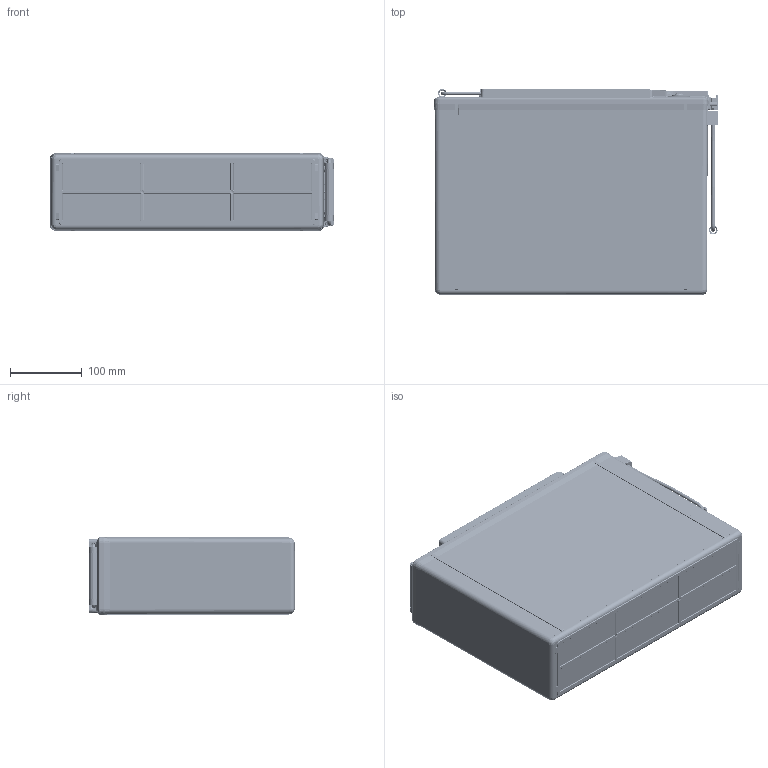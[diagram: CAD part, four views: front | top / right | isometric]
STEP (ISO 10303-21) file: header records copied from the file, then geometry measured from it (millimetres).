
FILE_DESCRIPTION (( 'STEP AP203' ), '1' );
FILE_NAME ('ODS-AGM225FTT.STEP', '2024-06-05T15:04:26', ( '' ), ( '' ), 'SwSTEP 2.0', 'SolidWorks 2023', '' );
FILE_SCHEMA (( 'CONFIG_CONTROL_DESIGN' ));
Products named in the file (1): ODS-AGM225FTT
Bounding box: 395 x 287 x 108 mm (x, y, z)
Surface area: 1149250.2 mm2 (no closed solid volume)
Topology: 0 solids, 34 shells, 8462 faces, 22133 edges, 13973 vertices
Faces by surface type: plane 5397, cylinder 1569, bspline 635, torus 389, cone 268, sphere 204
Entity records: 318537 total; most frequent: CARTESIAN_POINT 117599, ORIENTED_EDGE 44148, DIRECTION 37912, EDGE_CURVE 22082, VECTOR 15776, LINE 15776, VERTEX_POINT 13961, AXIS2_PLACEMENT_3D 11068
